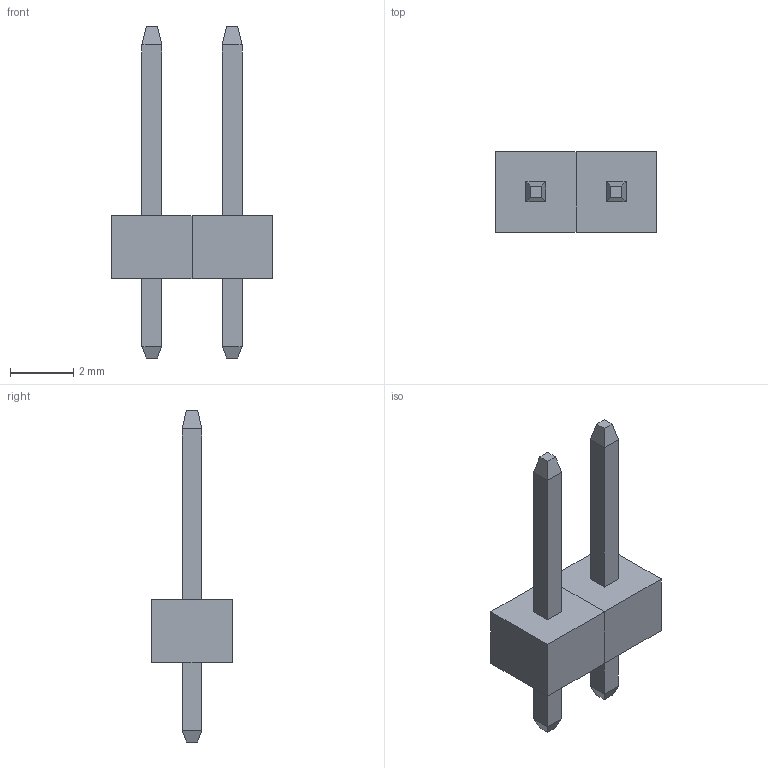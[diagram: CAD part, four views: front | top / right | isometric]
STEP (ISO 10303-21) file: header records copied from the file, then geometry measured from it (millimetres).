
FILE_DESCRIPTION(('shape.step'),'2;1');
FILE_NAME('shape.step','2026-11-03',('tscircuit'),('tscircuit'),'generator','','');
FILE_SCHEMA(('AUTOMOTIVE_DESIGN { 1 0 10303 214 1 1 1 1 }'));
Length unit declared in the file: millimetre
Products named in the file (1): shape
Bounding box: 5.08 x 2.54 x 10.5 mm (x, y, z)
Volume: 32.7 mm3; surface area: 113.2 mm2
Topology: 6 solids, 6 shells, 52 faces, 104 edges, 64 vertices
Faces by surface type: plane 52
Entity records: 1244 total; most frequent: DIRECTION 210, ORIENTED_EDGE 208, CARTESIAN_POINT 117, VECTOR 104, LINE 104, EDGE_CURVE 104, VERTEX_POINT 64, AXIS2_PLACEMENT_3D 53
